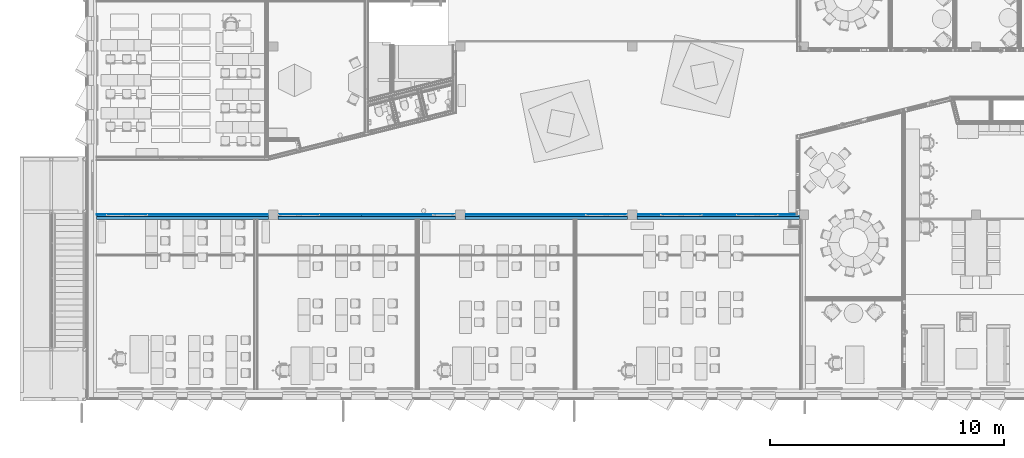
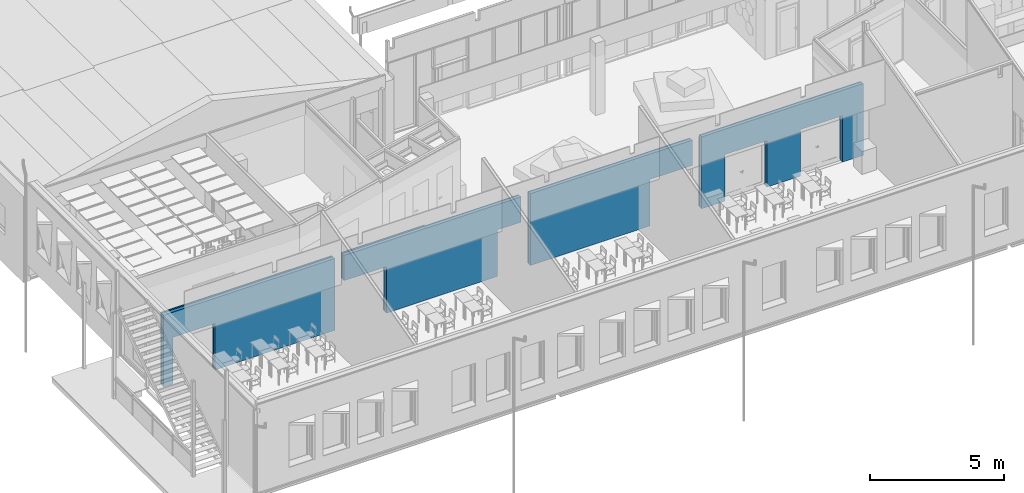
# One storey, part 46 of 153: 4 building element parts, 6 openings, 1 element without a shape of its own.
"""IFC2X3 building model written with IfcOpenShell, lengths in millimetres."""

from ifc_helpers import new_model, entity, si_unit, converted_unit, derived_unit, money_unit, direction, frame, origin_with_axes, place, context, subcontext, project, spatial, faceted_brep, material, type_object, element, aggregate, save


model = new_model("IFC2X3")

# Units and contexts
model_context = context("Model", 3, precision=0.01, world=origin_with_axes(), true_north=direction((0.0, 1.0)))
body_context = subcontext(model_context, "Body", "Model", "MODEL_VIEW")
ifc_project = project(units=[si_unit("LENGTHUNIT", "METRE", prefix="MILLI"), si_unit("AREAUNIT", "SQUARE_METRE"), si_unit("VOLUMEUNIT", "CUBIC_METRE"), converted_unit("PLANEANGLEUNIT", "DEGREE", entity("IfcPlaneAngleMeasure", 0.0174532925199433), si_unit("PLANEANGLEUNIT", "RADIAN"), dimensions=[0, 0, 0, 0, 0, 0, 0]), money_unit("EUR"), converted_unit("TIMEUNIT", "Year", entity("IfcTimeMeasure", 31557600.0), si_unit("TIMEUNIT", "SECOND"), dimensions=[0, 0, 1, 0, 0, 0, 0]), si_unit("MASSUNIT", "GRAM", prefix="KILO"), si_unit("THERMODYNAMICTEMPERATUREUNIT", "DEGREE_CELSIUS"), si_unit("LUMINOUSINTENSITYUNIT", "LUMEN"), si_unit("ENERGYUNIT", "JOULE", prefix="MEGA"), derived_unit("THERMALCONDUCTANCEUNIT", [(si_unit("POWERUNIT", "WATT"), 1), (si_unit("LENGTHUNIT", "METRE"), -1), (si_unit("THERMODYNAMICTEMPERATUREUNIT", "KELVIN"), -1)]), derived_unit("SPECIFICHEATCAPACITYUNIT", [(si_unit("ENERGYUNIT", "JOULE"), 1), (si_unit("MASSUNIT", "GRAM", prefix="KILO"), -1), (si_unit("THERMODYNAMICTEMPERATUREUNIT", "KELVIN"), -1)]), derived_unit("MASSDENSITYUNIT", [(si_unit("MASSUNIT", "GRAM", prefix="KILO"), 1), (si_unit("VOLUMEUNIT", "CUBIC_METRE"), -1)])], contexts=[model_context])

# Site, building, storey
site_placement = place(None, frame((0.0, 0.0, 8650.0), z_axis=(0.0, 0.0, 1.0), x_axis=(1.0, 0.0, 0.0)))
site = spatial("IfcSite", under=ifc_project, at=site_placement, Name="43301:001:0844", CompositionType="ELEMENT")
building_placement = place(site_placement, origin_with_axes())
building = spatial("IfcBuilding", under=site, at=building_placement, Name="Kuressaare Ametikooli tuulikute mehaanikute õppekorpus", CompositionType="ELEMENT")
storey_placement = place(building_placement, frame((0.0, 0.0, 4100.0), z_axis=(0.0, 0.0, 1.0), x_axis=(1.0, 0.0, 0.0)))
storey = spatial("IfcBuildingStorey", under=building, at=storey_placement, Name="2.korrus", CompositionType="ELEMENT", Elevation=4100.0)

# Wall, openings, building element parts
wall_type = type_object("IfcWallType", Name="SS-2.5 236", PredefinedType="NOTDEFINED")
wall_placement = place(storey_placement, frame((118393.9466433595, 16374.05087740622, 0.0), z_axis=(0.0, 0.0, 1.0), x_axis=(-0.9999999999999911, -1.330780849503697e-07, 0.0)))
wall = element("IfcWall", 1, at=wall_placement, inside=storey, type_object=wall_type, Name="Sisesein")
opening_1_placement = place(wall_placement, frame((8280.997249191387, 0.0, 0.0), z_axis=(0.0, 0.0, 1.0), x_axis=(1.0, 0.0, 0.0)))
element("IfcOpeningElement", 2, at=opening_1_placement, cuts=wall, Name="PKU9+9,dB", context=body_context, shape_type="Brep", body=[
    faceted_brep([(905.0000000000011, 1.004002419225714, 2110.0), (905.0000000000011, 1.004002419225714, 0.0), (-905.0000000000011, 1.004002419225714, 0.0), (-905.0000000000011, 1.004002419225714, 2110.0), (905.0000000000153, -237.0040024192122, 2110.0), (905.0000000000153, -237.0040024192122, 0.0), (-905.0000000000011, -237.0040024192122, 0.0), (-905.0000000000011, -237.0040024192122, 2110.0)], [[[0, 1, 2, 3]], [[4, 5, 1, 0]], [[5, 6, 2, 1]], [[6, 7, 3, 2]], [[7, 4, 0, 3]], [[6, 5, 4, 7]]]),
])
opening_2_placement = place(wall_placement, frame((15230.99449359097, 0.0, 0.0), z_axis=(0.0, 0.0, 1.0), x_axis=(1.0, 0.0, 0.0)))
element("IfcOpeningElement", 3, at=opening_2_placement, cuts=wall, Name="PKU10,dB", context=body_context, shape_type="Brep", body=[
    faceted_brep([(505.0000000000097, 1.004002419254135, 2110.0), (505.0000000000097, 1.004002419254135, 0.0), (-504.9999999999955, 1.004002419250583, 0.0), (-504.9999999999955, 1.004002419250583, 2110.0), (505.0000000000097, -237.0040024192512, 2110.0), (505.0000000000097, -237.0040024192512, 0.0), (-504.9999999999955, -237.0040024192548, 0.0), (-504.9999999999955, -237.0040024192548, 2110.0)], [[[0, 1, 2, 3]], [[4, 5, 1, 0]], [[5, 6, 2, 1]], [[6, 7, 3, 2]], [[7, 4, 0, 3]], [[6, 5, 4, 7]]]),
])
opening_3_placement = place(wall_placement, frame((28770.71994553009, 0.0, 0.0), z_axis=(0.0, 0.0, 1.0), x_axis=(1.0, 0.0, 0.0)))
element("IfcOpeningElement", 4, at=opening_3_placement, cuts=wall, Name="PKU9+9,dB", context=body_context, shape_type="Brep", body=[
    faceted_brep([(905.0000000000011, 1.004002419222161, 2110.0), (905.0000000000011, 1.004002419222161, 0.0), (-904.9999999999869, 1.004002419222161, 0.0), (-904.9999999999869, 1.004002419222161, 2110.0), (905.0000000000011, -237.0040024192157, 2110.0), (905.0000000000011, -237.0040024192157, 0.0), (-904.9999999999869, -237.0040024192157, 0.0), (-904.9999999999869, -237.0040024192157, 2110.0)], [[[0, 1, 2, 3]], [[4, 5, 1, 0]], [[5, 6, 2, 1]], [[6, 7, 3, 2]], [[7, 4, 0, 3]], [[6, 5, 4, 7]]]),
])
opening_4_placement = place(wall_placement, frame((5073.535267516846, 0.0, 0.0), z_axis=(0.0, 0.0, 1.0), x_axis=(1.0, 0.0, 0.0)))
element("IfcOpeningElement", 5, at=opening_4_placement, cuts=wall, Name="PKU9+9,dB", context=body_context, shape_type="Brep", body=[
    faceted_brep([(905.0000000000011, 1.004002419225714, 2110.0), (905.0000000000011, 1.004002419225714, 0.0), (-905.0000000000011, 1.004002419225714, 0.0), (-905.0000000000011, 1.004002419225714, 2110.0), (905.0000000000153, -237.0040024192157, 2110.0), (905.0000000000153, -237.0040024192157, 0.0), (-905.0000000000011, -237.0040024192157, 0.0), (-905.0000000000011, -237.0040024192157, 2110.0)], [[[0, 1, 2, 3]], [[4, 5, 1, 0]], [[5, 6, 2, 1]], [[6, 7, 3, 2]], [[7, 4, 0, 3]], [[6, 5, 4, 7]]]),
])
opening_5_placement = place(wall_placement, frame((21420.87816112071, 0.0, 0.0), z_axis=(0.0, 0.0, 1.0), x_axis=(1.0, 0.0, 0.0)))
element("IfcOpeningElement", 6, at=opening_5_placement, cuts=wall, Name="PKU9+9,dB", context=body_context, shape_type="Brep", body=[
    faceted_brep([(905.0000000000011, 1.004002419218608, 2110.0), (905.0000000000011, 1.004002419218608, 0.0), (-905.0000000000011, 1.004002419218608, 0.0), (-905.0000000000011, 1.004002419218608, 2110.0), (905.0000000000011, -237.0040024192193, 2110.0), (905.0000000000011, -237.0040024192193, 0.0), (-905.0000000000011, -237.0040024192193, 0.0), (-905.0000000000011, -237.0040024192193, 2110.0)], [[[0, 1, 2, 3]], [[4, 5, 1, 0]], [[5, 6, 2, 1]], [[6, 7, 3, 2]], [[7, 4, 0, 3]], [[6, 5, 4, 7]]]),
])
opening_6_placement = place(wall_placement, frame((1833.535267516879, 0.0, 0.0), z_axis=(0.0, 0.0, 1.0), x_axis=(1.0, 0.0, 0.0)))
element("IfcOpeningElement", 7, at=opening_6_placement, cuts=wall, Name="PKU9+9,dB", context=body_context, shape_type="Brep", body=[
    faceted_brep([(905.0000000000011, 1.004002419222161, 2110.0), (905.0000000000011, 1.004002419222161, 0.0), (-905.0000000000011, 1.004002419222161, 0.0), (-905.0000000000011, 1.004002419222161, 2110.0), (905.0000000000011, -237.0040024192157, 2110.0), (905.0000000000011, -237.0040024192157, 0.0), (-905.0000000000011, -237.0040024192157, 0.0), (-905.0000000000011, -237.0040024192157, 2110.0)], [[[0, 1, 2, 3]], [[4, 5, 1, 0]], [[5, 6, 2, 1]], [[6, 7, 3, 2]], [[7, 4, 0, 3]], [[6, 5, 4, 7]]]),
])
ifc_material_1 = material(Name="Puit - CLT")
building_element_part_1_placement = place(wall_placement, origin_with_axes())
building_element_part_1 = element("IfcBuildingElementPart", 8, at=building_element_part_1_placement, material=ifc_material_1, Name="Puit - CLT", context=body_context, shape_type="Brep", body=[
    faceted_brep([(29675.71994553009, -140.0000000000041, 2110.0), (29675.71994553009, -140.0000000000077, 0.0), (30075.71997954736, -140.0000000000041, 0.0), (30075.71997954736, -140.0000000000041, 3259.999999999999), (22725.87819572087, -140.0000000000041, 3259.999999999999), (22725.87819572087, -140.0000000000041, 0.0), (27865.71994553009, -140.0000000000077, 0.0), (27865.71994553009, -140.0000000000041, 2110.0), (29675.71994553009, 0.000978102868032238, 2110.0), (29675.71994553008, 5.323123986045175e-05, 0.0), (30075.71999817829, 0.0, 0.0), (30075.71999817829, 0.0, 3259.999999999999), (22725.87821435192, 0.000978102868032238, 3259.999999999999), (22725.87821435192, 0.000978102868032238, 0.0), (27865.71994553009, 0.0002941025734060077, 0.0), (27865.7199455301, 0.000978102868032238, 2110.0)], [[[0, 1, 2, 3, 4, 5, 6, 7]], [[1, 0, 8, 9]], [[1, 9, 10, 2]], [[11, 3, 2, 10]], [[4, 3, 11, 12]], [[4, 12, 13, 5]], [[14, 6, 5, 13]], [[7, 6, 14, 15]], [[0, 7, 15, 8]], [[15, 14, 13, 12, 11, 10, 9, 8]]]),
    faceted_brep([(20515.8781611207, -140.0000000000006, 2110.0), (22325.87816112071, -140.0000000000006, 2110.0), (22325.87819572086, -140.0000000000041, 3259.999999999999), (14725.99449452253, -140.0000000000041, 3259.999999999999), (14725.99449359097, -140.0000000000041, 2110.0), (15735.99449359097, -140.0000000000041, 2110.0), (15735.99449359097, -140.0000000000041, 0.0), (20515.8781611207, -140.0000000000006, 0.0), (20515.87816112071, 0.002042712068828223, 2110.0), (22325.8781611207, 0.001031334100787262, 2110.0), (22325.87821435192, 0.001031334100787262, 3259.999999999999), (14725.99451315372, 0.002042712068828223, 3259.999999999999), (14725.99449359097, 0.002042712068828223, 2110.0), (15735.99449359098, 0.002042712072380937, 2110.0), (15735.99449359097, 0.001908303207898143, 0.0), (20515.8781611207, 0.001272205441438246, 0.0)], [[[0, 1, 2, 3, 4, 5, 6, 7]], [[1, 0, 8, 9]], [[1, 9, 10, 2]], [[2, 10, 11, 3]], [[4, 3, 11, 12]], [[4, 12, 13, 5]], [[5, 13, 14, 6]], [[15, 7, 6, 14]], [[0, 7, 15, 8]], [[8, 15, 14, 13, 12, 11, 10, 9]]]),
    faceted_brep([(5978.535267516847, -140.0000000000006, 2110.0), (5978.535267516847, -140.0000000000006, 0.0), (6975.997250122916, -140.0000000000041, 0.0), (6975.997250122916, -140.0000000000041, 3259.999999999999), (25.99998136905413, -140.0000000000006, 3259.999999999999), (25.99998136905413, -140.0000000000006, 0.0), (928.5352675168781, -140.0000000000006, 0.0), (928.5352675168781, -140.0000000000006, 2110.0), (2738.535267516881, -140.0000000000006, 2110.0), (2738.535267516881, -140.0000000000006, 0.0), (4168.535267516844, -140.0000000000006, 0.0), (4168.535267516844, -140.0000000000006, 2110.0), (5978.535267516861, 0.00399895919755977, 2110.0), (5978.535267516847, 0.003206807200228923, 0.0), (6975.997268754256, 0.003074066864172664, 0.0), (6975.997268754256, 0.003074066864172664, 3259.999999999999), (26.00000000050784, 0.00399895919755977, 3259.999999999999), (26.00000000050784, 0.00399895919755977, 0.0), (928.5352675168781, 0.003878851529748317, 0.0), (928.5352675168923, 0.003998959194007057, 2110.0), (2738.535267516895, 0.003998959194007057, 2110.0), (2738.535267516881, 0.003637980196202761, 0.0), (4168.535267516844, 0.003447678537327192, 0.0), (4168.535267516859, 0.00399895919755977, 2110.0)], [[[0, 1, 2, 3, 4, 5, 6, 7, 8, 9, 10, 11]], [[1, 0, 12, 13]], [[1, 13, 14, 2]], [[2, 14, 15, 3]], [[3, 15, 16, 4]], [[16, 17, 5, 4]], [[6, 5, 17, 18]], [[6, 18, 19, 7]], [[7, 19, 20, 8]], [[8, 20, 21, 9]], [[22, 10, 9, 21]], [[11, 10, 22, 23]], [[0, 11, 23, 12]], [[23, 22, 21, 20, 19, 18, 17, 16, 15, 14, 13, 12]]]),
    faceted_brep([(7375.997249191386, 0.00302083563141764, 2110.0), (7375.997249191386, -140.0000000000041, 2110.0), (7375.997250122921, -140.0000000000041, 3259.999999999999), (7375.997268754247, 0.00302083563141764, 3259.999999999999), (9185.997249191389, -140.0000000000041, 2110.0), (9185.997249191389, 0.002095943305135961, 2110.0), (9185.997249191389, -140.0000000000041, 0.0), (14325.99449452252, -140.0000000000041, 0.0), (14325.99449452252, -140.0000000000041, 3259.999999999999), (14325.99451315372, 0.002095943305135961, 3259.999999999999), (14325.99451315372, 0.002095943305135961, 0.0), (9185.997249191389, 0.002779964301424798, 0.0)], [[[0, 1, 2, 3]], [[4, 1, 0, 5]], [[4, 6, 7, 8, 2, 1]], [[9, 3, 2, 8]], [[5, 0, 3, 9, 10, 11]], [[6, 4, 5, 11]], [[6, 11, 10, 7]], [[8, 7, 10, 9]]]),
])
ifc_material_2 = material(Name="Soojustus - Mineraalvill pehme")
building_element_part_2_placement = place(wall_placement, origin_with_axes())
building_element_part_2 = element("IfcBuildingElementPart", 9, at=building_element_part_2_placement, material=ifc_material_2, Name="Soojustus - Mineraalvill pehme", context=body_context, shape_type="Brep", body=[
    faceted_brep([(29675.71994553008, -206.0000000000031, 2110.0), (29675.71994553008, -206.0000000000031, 0.0), (30075.71997076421, -206.0000000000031, 0.0), (30075.71997076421, -206.0000000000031, 3259.999999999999), (22725.87818693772, -206.0000000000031, 3259.999999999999), (22725.87818693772, -206.0000000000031, 0.0), (27865.71994553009, -206.0000000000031, 0.0), (27865.71994553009, -206.0000000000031, 2110.0), (29675.71994553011, -140.0000000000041, 2110.0), (29675.71994553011, -140.0000000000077, 0.0), (30075.71997954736, -140.0000000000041, 0.0), (30075.71997954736, -140.0000000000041, 3259.999999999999), (22725.87819572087, -140.0000000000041, 3259.999999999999), (22725.87819572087, -140.0000000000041, 0.0), (27865.7199455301, -140.0000000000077, 0.0), (27865.7199455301, -140.0000000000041, 2110.0)], [[[0, 1, 2, 3, 4, 5, 6, 7]], [[1, 0, 8, 9]], [[1, 9, 10, 2]], [[11, 3, 2, 10]], [[4, 3, 11, 12]], [[4, 12, 13, 5]], [[14, 6, 5, 13]], [[7, 6, 14, 15]], [[0, 7, 15, 8]], [[15, 14, 13, 12, 11, 10, 9, 8]]]),
    faceted_brep([(20515.87816112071, -206.0000000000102, 2110.0), (22325.87816112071, -206.0000000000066, 2110.0), (22325.8781869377, -206.0000000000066, 3259.999999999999), (18750.87480229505, -206.0000000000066, 3259.999999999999), (18750.87823451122, -206.0000000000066, 3240.0), (14725.99448573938, -206.0000000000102, 3240.0), (14725.99449359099, -206.0000000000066, 2110.0), (15735.99449359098, -206.0000000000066, 2110.0), (15735.99449359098, -206.0000000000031, 0.0), (20515.87816112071, -206.0000000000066, 0.0), (20515.8781611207, -140.0000000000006, 2110.0), (22325.87816112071, -140.0000000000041, 2110.0), (22325.87819572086, -140.0000000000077, 3259.999999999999), (18750.87478029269, -140.0000000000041, 3259.999999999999), (18750.87823694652, -140.0000000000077, 3240.0), (14725.99449452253, -140.0000000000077, 3240.0), (14725.99449359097, -140.0000000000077, 2110.0), (15735.99449359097, -140.0000000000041, 2110.0), (15735.99449359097, -140.0000000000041, 0.0), (20515.8781611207, -140.0000000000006, 0.0)], [[[0, 1, 2, 3, 4, 5, 6, 7, 8, 9]], [[1, 0, 10, 11]], [[1, 11, 12, 2]], [[13, 3, 2, 12]], [[3, 13, 14, 4]], [[4, 14, 15, 5]], [[6, 5, 15, 16]], [[6, 16, 17, 7]], [[7, 17, 18, 8]], [[19, 9, 8, 18]], [[0, 9, 19, 10]], [[10, 19, 18, 17, 16, 15, 14, 13, 12, 11]]]),
    faceted_brep([(5978.535267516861, -206.0000000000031, 2110.0), (5978.535267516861, -206.0000000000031, 0.0), (6975.997241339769, -206.0000000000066, 0.0), (6975.997241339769, -206.0000000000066, 3240.0), (25.99997258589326, -206.0000000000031, 3240.0), (25.99997258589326, -206.0000000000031, 0.0), (928.5352675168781, -206.0000000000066, 0.0), (928.5352675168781, -206.0000000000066, 2110.0), (2738.535267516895, -206.0000000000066, 2110.0), (2738.535267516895, -206.0000000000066, 0.0), (4168.535267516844, -206.0000000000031, 0.0), (4168.535267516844, -206.0000000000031, 2110.0), (5978.535267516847, -140.0000000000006, 2110.0), (5978.535267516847, -140.0000000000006, 0.0), (6975.997250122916, -140.0000000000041, 0.0), (6975.997250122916, -140.0000000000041, 3240.0), (25.99998136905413, -140.0000000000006, 3240.0), (25.99998136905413, -140.0000000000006, 0.0), (928.5352675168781, -140.0000000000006, 0.0), (928.5352675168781, -140.0000000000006, 2110.0), (2738.535267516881, -140.0000000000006, 2110.0), (2738.535267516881, -140.0000000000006, 0.0), (4168.535267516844, -140.0000000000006, 0.0), (4168.535267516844, -140.0000000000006, 2110.0)], [[[0, 1, 2, 3, 4, 5, 6, 7, 8, 9, 10, 11]], [[1, 0, 12, 13]], [[1, 13, 14, 2]], [[2, 14, 15, 3]], [[3, 15, 16, 4]], [[16, 17, 5, 4]], [[6, 5, 17, 18]], [[6, 18, 19, 7]], [[7, 19, 20, 8]], [[8, 20, 21, 9]], [[22, 10, 9, 21]], [[11, 10, 22, 23]], [[0, 11, 23, 12]], [[23, 22, 21, 20, 19, 18, 17, 16, 15, 14, 13, 12]]]),
    faceted_brep([(7375.997249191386, -140.0000000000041, 2110.0), (7375.997249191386, -206.0000000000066, 2110.0), (7375.997241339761, -206.0000000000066, 3240.0), (7375.997250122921, -140.0000000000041, 3240.0), (9185.997249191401, -206.0000000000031, 2110.0), (9185.997249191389, -140.0000000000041, 2110.0), (9185.997249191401, -206.0000000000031, 0.0), (14325.99448573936, -206.0000000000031, 0.0), (14325.99448573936, -206.0000000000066, 3240.0), (14325.99449452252, -140.0000000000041, 3240.0), (14325.99449452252, -140.0000000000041, 0.0), (9185.997249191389, -140.0000000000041, 0.0)], [[[0, 1, 2, 3]], [[4, 1, 0, 5]], [[4, 6, 7, 8, 2, 1]], [[9, 3, 2, 8]], [[5, 0, 3, 9, 10, 11]], [[6, 4, 5, 11]], [[6, 11, 10, 7]], [[8, 7, 10, 9]]]),
])
ifc_material_3 = material(Name="Kipsplaat")
building_element_part_3_placement = place(wall_placement, origin_with_axes())
building_element_part_3 = element("IfcBuildingElementPart", 10, at=building_element_part_3_placement, material=ifc_material_3, Name="Kipsplaat", context=body_context, shape_type="Brep", body=[
    faceted_brep([(29675.71994553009, -221.0000000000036, 2110.0), (29675.71994553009, -221.0000000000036, 0.0), (30075.71996876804, -221.0000000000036, 0.0), (30075.71996876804, -221.0000000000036, 3259.999999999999), (22725.87818494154, -221.0000000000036, 3259.999999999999), (22725.87818494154, -221.0000000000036, 0.0), (27865.7199455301, -221.0000000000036, 0.0), (27865.7199455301, -221.0000000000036, 2110.0), (29675.71994553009, -206.0000000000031, 2110.0), (29675.71994553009, -206.0000000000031, 0.0), (30075.71997076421, -206.0000000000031, 0.0), (30075.71997076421, -206.0000000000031, 3259.999999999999), (22725.87818693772, -206.0000000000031, 3259.999999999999), (22725.87818693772, -206.0000000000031, 0.0), (27865.7199455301, -206.0000000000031, 0.0), (27865.7199455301, -206.0000000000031, 2110.0)], [[[0, 1, 2, 3, 4, 5, 6, 7]], [[1, 0, 8, 9]], [[1, 9, 10, 2]], [[11, 3, 2, 10]], [[4, 3, 11, 12]], [[4, 12, 13, 5]], [[14, 6, 5, 13]], [[7, 6, 14, 15]], [[0, 7, 15, 8]], [[15, 14, 13, 12, 11, 10, 9, 8]]]),
    faceted_brep([(20515.87816112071, -221.0000000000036, 2110.0), (22325.87816112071, -221.0000000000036, 2110.0), (22325.87818494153, -221.0000000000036, 3259.999999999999), (18750.87480729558, -221.0000000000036, 3259.999999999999), (18750.87823395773, -221.0000000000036, 3145.0), (14725.99448374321, -221.0000000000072, 3145.0), (14725.99449359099, -221.0000000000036, 2110.0), (15735.99449359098, -221.0000000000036, 2110.0), (15735.99449359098, -221.0000000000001, 0.0), (20515.87816112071, -221.0000000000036, 0.0), (20515.87816112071, -206.0000000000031, 2110.0), (22325.87816112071, -206.0000000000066, 2110.0), (22325.8781869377, -206.0000000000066, 3259.999999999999), (18750.87480229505, -206.0000000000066, 3259.999999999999), (18750.87823451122, -206.0000000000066, 3145.0), (14725.99448573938, -206.0000000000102, 3145.0), (14725.99449359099, -206.0000000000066, 2110.0), (15735.99449359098, -206.0000000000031, 2110.0), (15735.99449359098, -206.0000000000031, 0.0), (20515.87816112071, -206.0000000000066, 0.0)], [[[0, 1, 2, 3, 4, 5, 6, 7, 8, 9]], [[1, 0, 10, 11]], [[1, 11, 12, 2]], [[13, 3, 2, 12]], [[4, 3, 13, 14]], [[4, 14, 15, 5]], [[6, 5, 15, 16]], [[6, 16, 17, 7]], [[7, 17, 18, 8]], [[19, 9, 8, 18]], [[0, 9, 19, 10]], [[10, 19, 18, 17, 16, 15, 14, 13, 12, 11]]]),
    faceted_brep([(5978.535267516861, -221.0000000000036, 2110.0), (5978.535267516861, -221.0000000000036, 0.0), (6975.997239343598, -221.0000000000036, 0.0), (6975.997239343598, -221.0000000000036, 3145.0), (25.99997058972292, -221.0000000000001, 3145.0), (25.99997058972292, -221.0000000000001, 0.0), (928.5352675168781, -221.0000000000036, 0.0), (928.5352675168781, -221.0000000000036, 2110.0), (2738.535267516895, -221.0000000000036, 2110.0), (2738.535267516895, -221.0000000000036, 0.0), (4168.535267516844, -221.0000000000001, 0.0), (4168.535267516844, -221.0000000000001, 2110.0), (5978.535267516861, -206.0000000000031, 2110.0), (5978.535267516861, -206.0000000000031, 0.0), (6975.997241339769, -206.0000000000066, 0.0), (6975.997241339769, -206.0000000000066, 3145.0), (25.99997258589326, -206.0000000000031, 3145.0), (25.99997258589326, -206.0000000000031, 0.0), (928.5352675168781, -206.0000000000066, 0.0), (928.5352675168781, -206.0000000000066, 2110.0), (2738.535267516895, -206.0000000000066, 2110.0), (2738.535267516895, -206.0000000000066, 0.0), (4168.535267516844, -206.0000000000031, 0.0), (4168.535267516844, -206.0000000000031, 2110.0)], [[[0, 1, 2, 3, 4, 5, 6, 7, 8, 9, 10, 11]], [[1, 0, 12, 13]], [[1, 13, 14, 2]], [[2, 14, 15, 3]], [[3, 15, 16, 4]], [[16, 17, 5, 4]], [[6, 5, 17, 18]], [[6, 18, 19, 7]], [[7, 19, 20, 8]], [[8, 20, 21, 9]], [[22, 10, 9, 21]], [[11, 10, 22, 23]], [[0, 11, 23, 12]], [[23, 22, 21, 20, 19, 18, 17, 16, 15, 14, 13, 12]]]),
    faceted_brep([(7375.997249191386, -206.0000000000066, 2110.0), (7375.997249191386, -221.0000000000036, 2110.0), (7375.99723934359, -221.0000000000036, 3145.0), (7375.997241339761, -206.0000000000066, 3145.0), (9185.997249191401, -221.0000000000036, 2110.0), (9185.997249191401, -206.0000000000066, 2110.0), (9185.997249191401, -221.0000000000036, 0.0), (14325.99448374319, -221.0000000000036, 0.0), (14325.99448374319, -221.0000000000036, 3145.0), (14325.99448573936, -206.0000000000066, 3145.0), (14325.99448573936, -206.0000000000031, 0.0), (9185.997249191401, -206.0000000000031, 0.0)], [[[0, 1, 2, 3]], [[4, 1, 0, 5]], [[4, 6, 7, 8, 2, 1]], [[9, 3, 2, 8]], [[5, 0, 3, 9, 10, 11]], [[6, 4, 5, 11]], [[6, 11, 10, 7]], [[8, 7, 10, 9]]]),
])
building_element_part_4_placement = place(wall_placement, origin_with_axes())
building_element_part_4 = element("IfcBuildingElementPart", 11, at=building_element_part_4_placement, material=ifc_material_3, Name="Kipsplaat", context=body_context, shape_type="Brep", body=[
    faceted_brep([(29675.71994553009, -235.9999999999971, 2110.0), (29675.71994553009, -235.9999999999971, 0.0), (30075.71996677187, -235.9999999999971, 0.0), (30075.71996677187, -235.9999999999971, 3259.999999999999), (22725.87818294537, -235.9999999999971, 3259.999999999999), (22725.87818294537, -235.9999999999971, 0.0), (27865.7199455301, -235.9999999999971, 0.0), (27865.7199455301, -235.9999999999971, 2110.0), (29675.71994553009, -221.0000000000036, 2110.0), (29675.71994553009, -221.0000000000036, 0.0), (30075.71996876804, -221.0000000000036, 0.0), (30075.71996876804, -221.0000000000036, 3259.999999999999), (22725.87818494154, -221.0000000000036, 3259.999999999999), (22725.87818494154, -221.0000000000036, 0.0), (27865.7199455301, -221.0000000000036, 0.0), (27865.7199455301, -221.0000000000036, 2110.0)], [[[0, 1, 2, 3, 4, 5, 6, 7]], [[1, 0, 8, 9]], [[1, 9, 10, 2]], [[11, 3, 2, 10]], [[4, 3, 11, 12]], [[4, 12, 13, 5]], [[14, 6, 5, 13]], [[7, 6, 14, 15]], [[0, 7, 15, 8]], [[15, 14, 13, 12, 11, 10, 9, 8]]]),
    faceted_brep([(20515.87816112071, -235.9999999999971, 2110.0), (22325.87816112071, -235.9999999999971, 2110.0), (22325.87818294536, -235.9999999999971, 3259.999999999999), (18750.8748122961, -235.9999999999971, 3259.999999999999), (18750.87823340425, -235.9999999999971, 3129.999999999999), (14725.99448174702, -236.0000000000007, 3129.999999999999), (14725.99449359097, -236.0000000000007, 2110.0), (15735.99449359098, -235.9999999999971, 2110.0), (15735.99449359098, -235.9999999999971, 0.0), (20515.87816112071, -236.0000000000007, 0.0), (20515.87816112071, -221.0000000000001, 2110.0), (22325.87816112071, -221.0000000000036, 2110.0), (22325.87818494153, -221.0000000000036, 3259.999999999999), (18750.87480729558, -221.0000000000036, 3259.999999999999), (18750.87823395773, -221.0000000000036, 3129.999999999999), (14725.99448374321, -221.0000000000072, 3129.999999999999), (14725.99449359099, -221.0000000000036, 2110.0), (15735.99449359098, -221.0000000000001, 2110.0), (15735.99449359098, -221.0000000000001, 0.0), (20515.87816112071, -221.0000000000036, 0.0)], [[[0, 1, 2, 3, 4, 5, 6, 7, 8, 9]], [[1, 0, 10, 11]], [[1, 11, 12, 2]], [[13, 3, 2, 12]], [[4, 3, 13, 14]], [[4, 14, 15, 5]], [[6, 5, 15, 16]], [[6, 16, 17, 7]], [[7, 17, 18, 8]], [[19, 9, 8, 18]], [[0, 9, 19, 10]], [[10, 19, 18, 17, 16, 15, 14, 13, 12, 11]]]),
    faceted_brep([(5978.535267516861, -236.0000000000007, 2110.0), (5978.535267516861, -236.0000000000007, 0.0), (6975.997237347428, -236.0000000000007, 0.0), (6975.997237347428, -236.0000000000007, 3129.999999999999), (25.99996859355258, -235.9999999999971, 3129.999999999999), (25.99996859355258, -235.9999999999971, 0.0), (928.5352675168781, -236.0000000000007, 0.0), (928.5352675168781, -236.0000000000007, 2110.0), (2738.535267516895, -236.0000000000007, 2110.0), (2738.535267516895, -236.0000000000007, 0.0), (4168.535267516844, -236.0000000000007, 0.0), (4168.535267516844, -236.0000000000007, 2110.0), (5978.535267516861, -221.0000000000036, 2110.0), (5978.535267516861, -221.0000000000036, 0.0), (6975.997239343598, -221.0000000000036, 0.0), (6975.997239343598, -221.0000000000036, 3129.999999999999), (25.99997058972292, -221.0000000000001, 3129.999999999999), (25.99997058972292, -221.0000000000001, 0.0), (928.5352675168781, -221.0000000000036, 0.0), (928.5352675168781, -221.0000000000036, 2110.0), (2738.535267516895, -221.0000000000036, 2110.0), (2738.535267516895, -221.0000000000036, 0.0), (4168.535267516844, -221.0000000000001, 0.0), (4168.535267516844, -221.0000000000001, 2110.0)], [[[0, 1, 2, 3, 4, 5, 6, 7, 8, 9, 10, 11]], [[1, 0, 12, 13]], [[1, 13, 14, 2]], [[2, 14, 15, 3]], [[3, 15, 16, 4]], [[16, 17, 5, 4]], [[6, 5, 17, 18]], [[6, 18, 19, 7]], [[7, 19, 20, 8]], [[8, 20, 21, 9]], [[22, 10, 9, 21]], [[11, 10, 22, 23]], [[0, 11, 23, 12]], [[23, 22, 21, 20, 19, 18, 17, 16, 15, 14, 13, 12]]]),
    faceted_brep([(7375.997249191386, -221.0000000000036, 2110.0), (7375.997249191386, -236.0000000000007, 2110.0), (7375.99723734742, -236.0000000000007, 3129.999999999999), (7375.99723934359, -221.0000000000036, 3129.999999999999), (9185.997249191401, -235.9999999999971, 2110.0), (9185.997249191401, -221.0000000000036, 2110.0), (9185.997249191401, -235.9999999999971, 0.0), (14325.99448174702, -235.9999999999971, 0.0), (14325.99448174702, -235.9999999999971, 3129.999999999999), (14325.99448374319, -221.0000000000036, 3129.999999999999), (14325.99448374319, -221.0000000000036, 0.0), (9185.997249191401, -221.0000000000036, 0.0)], [[[0, 1, 2, 3]], [[4, 1, 0, 5]], [[4, 6, 7, 8, 2, 1]], [[9, 3, 2, 8]], [[5, 0, 3, 9, 10, 11]], [[6, 4, 5, 11]], [[6, 11, 10, 7]], [[8, 7, 10, 9]]]),
])
aggregate(wall, [building_element_part_1, building_element_part_2, building_element_part_3, building_element_part_4])

save(model, "model.ifc")
